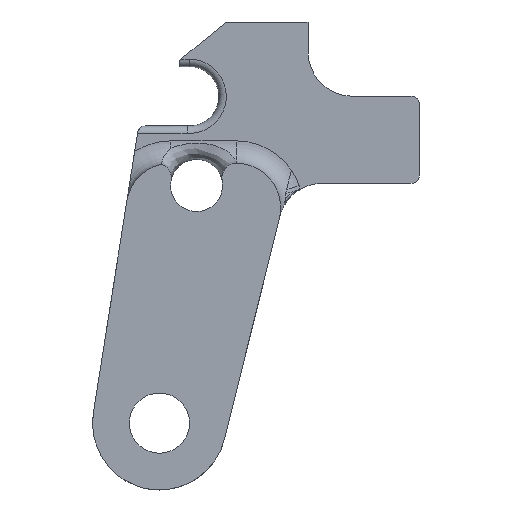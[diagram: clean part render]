
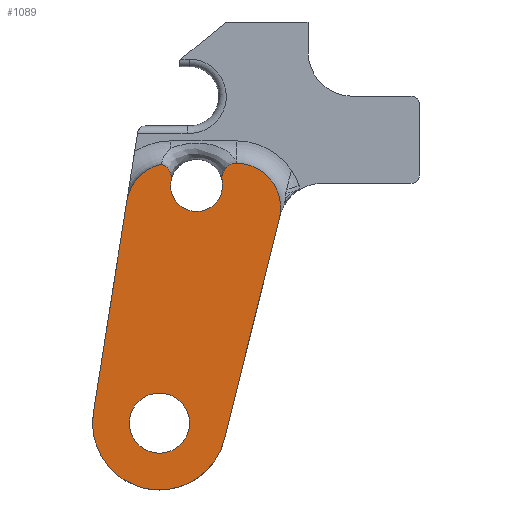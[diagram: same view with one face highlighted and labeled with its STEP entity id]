
A CAD part, left-side view. The second image highlights one B-rep face of the part: STEP entity #1089.
In plain terms, the highlighted planar face has unit normal (-1, 0, 0).
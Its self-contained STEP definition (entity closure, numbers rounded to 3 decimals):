
#21=FACE_BOUND('',#180,.T.);
#62=B_SPLINE_CURVE_WITH_KNOTS('',3,(#2445,#2446,#2447,#2448,#2449,#2450),
 .UNSPECIFIED.,.F.,.F.,(4,1,1,4),(0.073,0.151,0.251,
0.352),.UNSPECIFIED.);
#64=B_SPLINE_CURVE_WITH_KNOTS('',3,(#2470,#2471,#2472,#2473,#2474,#2475),
 .UNSPECIFIED.,.F.,.F.,(4,1,1,4),(0.,0.1,0.201,
0.348),.UNSPECIFIED.);
#83=PLANE('',#1193);
#120=FACE_OUTER_BOUND('',#179,.T.);
#179=EDGE_LOOP('',(#853,#854,#855,#856,#857,#858,#859,#860,#861));
#180=EDGE_LOOP('',(#862));
#251=CIRCLE('',#1181,6.);
#260=CIRCLE('',#1194,3.5);
#261=CIRCLE('',#1195,3.5);
#262=CIRCLE('',#1196,6.);
#263=CIRCLE('',#1197,9.);
#264=CIRCLE('',#1198,4.05);
#316=LINE('',#2207,#384);
#322=LINE('',#2483,#390);
#384=VECTOR('',#1390,30.501);
#390=VECTOR('',#1414,28.886);
#481=VERTEX_POINT('',#2177);
#482=VERTEX_POINT('',#2184);
#489=VERTEX_POINT('',#2206);
#497=VERTEX_POINT('',#2367);
#498=VERTEX_POINT('',#2444);
#499=VERTEX_POINT('',#2451);
#500=VERTEX_POINT('',#2477);
#501=VERTEX_POINT('',#2480);
#502=VERTEX_POINT('',#2482);
#503=VERTEX_POINT('',#2485);
#610=EDGE_CURVE('',#481,#482,#251,.T.);
#620=EDGE_CURVE('',#482,#489,#316,.T.);
#632=EDGE_CURVE('',#497,#498,#62,.T.);
#634=EDGE_CURVE('',#499,#481,#64,.T.);
#635=EDGE_CURVE('',#499,#500,#260,.T.);
#636=EDGE_CURVE('',#500,#498,#261,.T.);
#637=EDGE_CURVE('',#501,#497,#262,.T.);
#638=EDGE_CURVE('',#502,#501,#322,.T.);
#639=EDGE_CURVE('',#489,#502,#263,.T.);
#640=EDGE_CURVE('',#503,#503,#264,.T.);
#853=ORIENTED_EDGE('',*,*,#620,.F.);
#854=ORIENTED_EDGE('',*,*,#610,.F.);
#855=ORIENTED_EDGE('',*,*,#634,.F.);
#856=ORIENTED_EDGE('',*,*,#635,.T.);
#857=ORIENTED_EDGE('',*,*,#636,.T.);
#858=ORIENTED_EDGE('',*,*,#632,.F.);
#859=ORIENTED_EDGE('',*,*,#637,.F.);
#860=ORIENTED_EDGE('',*,*,#638,.F.);
#861=ORIENTED_EDGE('',*,*,#639,.F.);
#862=ORIENTED_EDGE('',*,*,#640,.T.);
#1089=ADVANCED_FACE('',(#120,#21),#83,.F.);
#1181=AXIS2_PLACEMENT_3D('',#2185,#1372,#1373);
#1193=AXIS2_PLACEMENT_3D('',#2476,#1406,#1407);
#1194=AXIS2_PLACEMENT_3D('',#2478,#1408,#1409);
#1195=AXIS2_PLACEMENT_3D('',#2479,#1410,#1411);
#1196=AXIS2_PLACEMENT_3D('',#2481,#1412,#1413);
#1197=AXIS2_PLACEMENT_3D('',#2484,#1415,#1416);
#1198=AXIS2_PLACEMENT_3D('',#2486,#1417,#1418);
#1372=DIRECTION('center_axis',(1.,0.,0.));
#1373=DIRECTION('ref_axis',(0.,-0.788,0.616));
#1390=DIRECTION('',(0.,0.242,-0.97));
#1406=DIRECTION('center_axis',(1.,0.,0.));
#1407=DIRECTION('ref_axis',(0.,0.,-1.));
#1408=DIRECTION('center_axis',(1.,0.,0.));
#1409=DIRECTION('ref_axis',(0.,-1.,0.));
#1410=DIRECTION('center_axis',(1.,0.,0.));
#1411=DIRECTION('ref_axis',(0.,-1.,0.));
#1412=DIRECTION('center_axis',(1.,0.,0.));
#1413=DIRECTION('ref_axis',(0.,0.65,0.76));
#1414=DIRECTION('',(0.,-0.156,0.988));
#1415=DIRECTION('center_axis',(1.,0.,0.));
#1416=DIRECTION('ref_axis',(0.,1.,0.));
#1417=DIRECTION('center_axis',(1.,0.,0.));
#1418=DIRECTION('ref_axis',(0.,-1.,0.));
#2177=CARTESIAN_POINT('',(-9.,-10.376,35.));
#2184=CARTESIAN_POINT('',(-9.,-16.143,27.549));
#2185=CARTESIAN_POINT('Origin',(-9.,-10.321,29.));
#2206=CARTESIAN_POINT('',(-9.,-8.733,-2.177));
#2207=CARTESIAN_POINT('',(-9.,-16.11,27.419));
#2367=CARTESIAN_POINT('',(-9.,-0.301,34.868));
#2444=CARTESIAN_POINT('',(-9.,-1.558,32.636));
#2445=CARTESIAN_POINT('Ctrl Pts',(-9.,-0.301,34.868));
#2446=CARTESIAN_POINT('Ctrl Pts',(-9.,-0.543,34.775));
#2447=CARTESIAN_POINT('Ctrl Pts',(-9.,-1.057,34.459));
#2448=CARTESIAN_POINT('Ctrl Pts',(-9.,-1.572,33.651));
#2449=CARTESIAN_POINT('Ctrl Pts',(-9.,-1.619,32.965));
#2450=CARTESIAN_POINT('Ctrl Pts',(-9.,-1.558,32.636));
#2451=CARTESIAN_POINT('',(-9.,-8.442,32.636));
#2470=CARTESIAN_POINT('Ctrl Pts',(-9.,-8.442,32.636));
#2471=CARTESIAN_POINT('Ctrl Pts',(-9.,-8.381,32.965));
#2472=CARTESIAN_POINT('Ctrl Pts',(-9.,-8.428,33.651));
#2473=CARTESIAN_POINT('Ctrl Pts',(-9.,-9.071,34.661));
#2474=CARTESIAN_POINT('Ctrl Pts',(-9.,-9.886,34.991));
#2475=CARTESIAN_POINT('Ctrl Pts',(-9.,-10.376,35.));
#2476=CARTESIAN_POINT('Origin',(-9.,-5.574,29.918));
#2477=CARTESIAN_POINT('',(-9.,-1.5,32.));
#2478=CARTESIAN_POINT('Origin',(-9.,-5.,32.));
#2479=CARTESIAN_POINT('Origin',(-9.,-5.,32.));
#2480=CARTESIAN_POINT('',(-9.,4.381,29.937));
#2481=CARTESIAN_POINT('Origin',(-9.,-1.546,29.));
#2482=CARTESIAN_POINT('',(-9.,8.89,1.405));
#2483=CARTESIAN_POINT('',(-9.,8.89,1.405));
#2484=CARTESIAN_POINT('Origin',(-9.,0.,0.));
#2485=CARTESIAN_POINT('',(-9.,4.05,0.));
#2486=CARTESIAN_POINT('Origin',(-9.,0.,0.));
